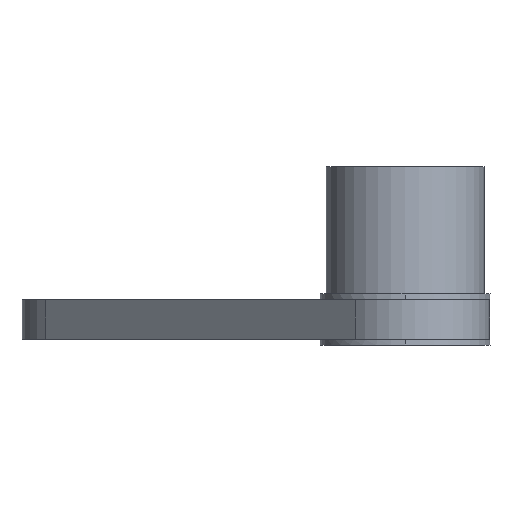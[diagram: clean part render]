
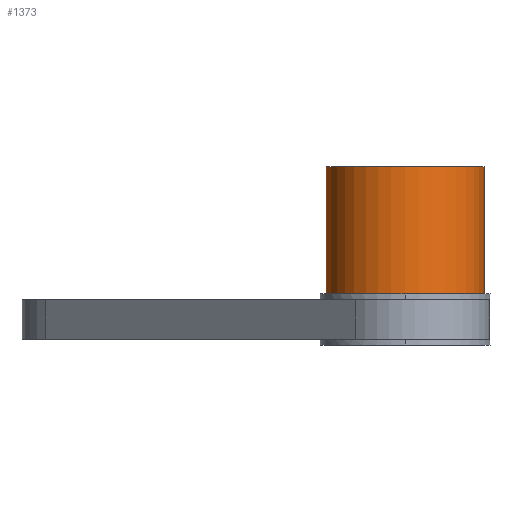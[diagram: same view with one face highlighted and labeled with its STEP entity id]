
A CAD part, front view. The second image highlights one B-rep face of the part: STEP entity #1373.
In plain terms, the highlighted cylindrical face has radius 20 mm (diameter 40 mm), a partial arc.
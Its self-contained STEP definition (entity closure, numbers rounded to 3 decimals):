
#48 = VECTOR ( 'NONE', #911, 1000. ) ;
#114 = EDGE_CURVE ( 'NONE', #687, #849, #2432, .T. ) ;
#174 = CIRCLE ( 'NONE', #384, 20. ) ;
#215 = AXIS2_PLACEMENT_3D ( 'NONE', #1248, #1993, #254 ) ;
#254 = DIRECTION ( 'NONE',  ( 1., 0., 0. ) ) ;
#316 = LINE ( 'NONE', #704, #740 ) ;
#318 = CARTESIAN_POINT ( 'NONE',  ( 97.125, 0., 179.469 ) ) ;
#341 = VERTEX_POINT ( 'NONE', #777 ) ;
#384 = AXIS2_PLACEMENT_3D ( 'NONE', #1113, #1137, #2062 ) ;
#414 = DIRECTION ( 'NONE',  ( -1., 0., 0. ) ) ;
#461 = CIRCLE ( 'NONE', #215, 20. ) ;
#611 = CARTESIAN_POINT ( 'NONE',  ( 77.125, 0., 179.469 ) ) ;
#615 = CARTESIAN_POINT ( 'NONE',  ( 97.125, 0., 90.7 ) ) ;
#687 = VERTEX_POINT ( 'NONE', #745 ) ;
#704 = CARTESIAN_POINT ( 'NONE',  ( 57.125, 0., 179.469 ) ) ;
#740 = VECTOR ( 'NONE', #940, 1000. ) ;
#745 = CARTESIAN_POINT ( 'NONE',  ( 97.125, 0., 122.9 ) ) ;
#777 = CARTESIAN_POINT ( 'NONE',  ( 57.125, 0., 90.7 ) ) ;
#796 = AXIS2_PLACEMENT_3D ( 'NONE', #611, #1197, #414 ) ;
#849 = VERTEX_POINT ( 'NONE', #615 ) ;
#895 = ORIENTED_EDGE ( 'NONE', *, *, #1258, .F. ) ;
#911 = DIRECTION ( 'NONE',  ( 0., 0., -1. ) ) ;
#940 = DIRECTION ( 'NONE',  ( 0., 0., -1. ) ) ;
#1103 = CARTESIAN_POINT ( 'NONE',  ( 57.125, 0., 122.9 ) ) ;
#1113 = CARTESIAN_POINT ( 'NONE',  ( 77.125, 0., 122.9 ) ) ;
#1137 = DIRECTION ( 'NONE',  ( 0., 0., 1. ) ) ;
#1197 = DIRECTION ( 'NONE',  ( 0., 0., -1. ) ) ;
#1213 = ORIENTED_EDGE ( 'NONE', *, *, #2148, .T. ) ;
#1247 = ORIENTED_EDGE ( 'NONE', *, *, #114, .F. ) ;
#1248 = CARTESIAN_POINT ( 'NONE',  ( 77.125, 0., 90.7 ) ) ;
#1258 = EDGE_CURVE ( 'NONE', #2285, #687, #174, .T. ) ;
#1335 = ORIENTED_EDGE ( 'NONE', *, *, #1990, .T. ) ;
#1373 = ADVANCED_FACE ( 'NONE', ( #1948 ), #2318, .T. ) ;
#1602 = EDGE_LOOP ( 'NONE', ( #1247, #895, #1213, #1335 ) ) ;
#1948 = FACE_OUTER_BOUND ( 'NONE', #1602, .T. ) ;
#1990 = EDGE_CURVE ( 'NONE', #341, #849, #461, .T. ) ;
#1993 = DIRECTION ( 'NONE',  ( 0., 0., 1. ) ) ;
#2062 = DIRECTION ( 'NONE',  ( 1., 0., 0. ) ) ;
#2148 = EDGE_CURVE ( 'NONE', #2285, #341, #316, .T. ) ;
#2285 = VERTEX_POINT ( 'NONE', #1103 ) ;
#2318 = CYLINDRICAL_SURFACE ( 'NONE', #796, 20. ) ;
#2432 = LINE ( 'NONE', #318, #48 ) ;
